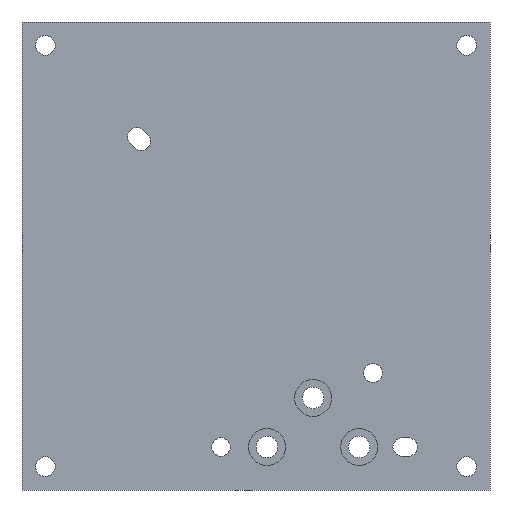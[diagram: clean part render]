
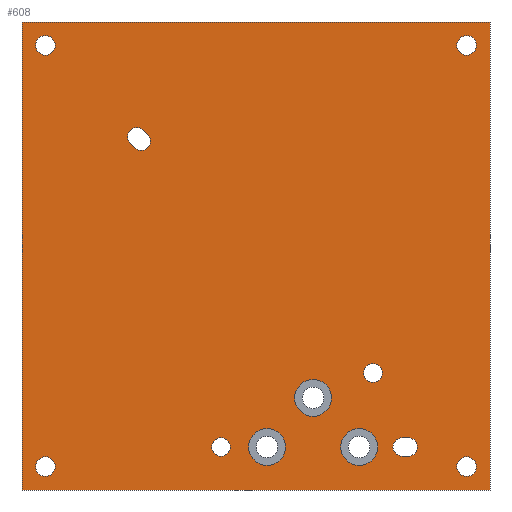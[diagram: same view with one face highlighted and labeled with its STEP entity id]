
A CAD part, front view. The second image highlights one B-rep face of the part: STEP entity #608.
In plain terms, the highlighted planar face has unit normal (0, -1, 0).
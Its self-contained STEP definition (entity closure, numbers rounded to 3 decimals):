
#18=LINE('',#919,#46);
#22=LINE('',#929,#50);
#26=LINE('',#953,#54);
#30=LINE('',#963,#58);
#31=LINE('',#1011,#59);
#35=LINE('',#1019,#63);
#38=LINE('',#1025,#66);
#41=LINE('',#1030,#69);
#46=VECTOR('',#743,1.);
#50=VECTOR('',#755,1.);
#54=VECTOR('',#779,1.);
#58=VECTOR('',#791,1.);
#59=VECTOR('',#850,76.2);
#63=VECTOR('',#856,76.2);
#66=VECTOR('',#861,76.2);
#69=VECTOR('',#866,76.2);
#125=FACE_BOUND('',#244,.T.);
#126=FACE_BOUND('',#245,.T.);
#127=FACE_BOUND('',#246,.T.);
#128=FACE_BOUND('',#247,.T.);
#129=FACE_BOUND('',#248,.T.);
#130=FACE_BOUND('',#249,.T.);
#131=FACE_BOUND('',#250,.T.);
#132=FACE_BOUND('',#251,.T.);
#133=FACE_BOUND('',#252,.T.);
#134=FACE_BOUND('',#253,.T.);
#135=FACE_BOUND('',#254,.T.);
#172=FACE_OUTER_BOUND('',#243,.T.);
#243=EDGE_LOOP('',(#534,#535,#536,#537));
#244=EDGE_LOOP('',(#538));
#245=EDGE_LOOP('',(#539));
#246=EDGE_LOOP('',(#540));
#247=EDGE_LOOP('',(#541,#542,#543,#544));
#248=EDGE_LOOP('',(#545));
#249=EDGE_LOOP('',(#546));
#250=EDGE_LOOP('',(#547,#548,#549,#550));
#251=EDGE_LOOP('',(#551));
#252=EDGE_LOOP('',(#552));
#253=EDGE_LOOP('',(#553));
#254=EDGE_LOOP('',(#554));
#257=CIRCLE('',#615,3.);
#261=CIRCLE('',#622,3.);
#265=CIRCLE('',#629,3.);
#268=CIRCLE('',#634,1.5);
#270=CIRCLE('',#638,1.5);
#272=CIRCLE('',#642,1.5);
#274=CIRCLE('',#645,1.518);
#276=CIRCLE('',#648,1.518);
#278=CIRCLE('',#652,1.518);
#282=CIRCLE('',#660,1.6);
#286=CIRCLE('',#667,1.6);
#290=CIRCLE('',#674,1.6);
#294=CIRCLE('',#681,1.6);
#297=VERTEX_POINT('',#879);
#301=VERTEX_POINT('',#890);
#305=VERTEX_POINT('',#901);
#309=VERTEX_POINT('',#910);
#310=VERTEX_POINT('',#912);
#312=VERTEX_POINT('',#918);
#314=VERTEX_POINT('',#924);
#316=VERTEX_POINT('',#933);
#318=VERTEX_POINT('',#938);
#321=VERTEX_POINT('',#944);
#322=VERTEX_POINT('',#946);
#324=VERTEX_POINT('',#952);
#326=VERTEX_POINT('',#958);
#330=VERTEX_POINT('',#973);
#334=VERTEX_POINT('',#984);
#338=VERTEX_POINT('',#995);
#342=VERTEX_POINT('',#1006);
#343=VERTEX_POINT('',#1009);
#344=VERTEX_POINT('',#1010);
#347=VERTEX_POINT('',#1018);
#349=VERTEX_POINT('',#1024);
#353=EDGE_CURVE('',#297,#297,#257,.T.);
#357=EDGE_CURVE('',#301,#301,#261,.T.);
#361=EDGE_CURVE('',#305,#305,#265,.T.);
#365=EDGE_CURVE('',#310,#309,#268,.T.);
#368=EDGE_CURVE('',#312,#310,#18,.T.);
#371=EDGE_CURVE('',#314,#312,#270,.T.);
#374=EDGE_CURVE('',#309,#314,#22,.T.);
#376=EDGE_CURVE('',#316,#316,#272,.T.);
#378=EDGE_CURVE('',#318,#318,#274,.T.);
#381=EDGE_CURVE('',#322,#321,#276,.T.);
#384=EDGE_CURVE('',#324,#322,#26,.T.);
#387=EDGE_CURVE('',#326,#324,#278,.T.);
#390=EDGE_CURVE('',#321,#326,#30,.T.);
#394=EDGE_CURVE('',#330,#330,#282,.T.);
#398=EDGE_CURVE('',#334,#334,#286,.T.);
#402=EDGE_CURVE('',#338,#338,#290,.T.);
#406=EDGE_CURVE('',#342,#342,#294,.T.);
#407=EDGE_CURVE('',#343,#344,#31,.T.);
#411=EDGE_CURVE('',#347,#343,#35,.T.);
#414=EDGE_CURVE('',#349,#347,#38,.T.);
#417=EDGE_CURVE('',#344,#349,#41,.T.);
#534=ORIENTED_EDGE('',*,*,#414,.F.);
#535=ORIENTED_EDGE('',*,*,#417,.F.);
#536=ORIENTED_EDGE('',*,*,#407,.F.);
#537=ORIENTED_EDGE('',*,*,#411,.F.);
#538=ORIENTED_EDGE('',*,*,#353,.T.);
#539=ORIENTED_EDGE('',*,*,#357,.T.);
#540=ORIENTED_EDGE('',*,*,#361,.T.);
#541=ORIENTED_EDGE('',*,*,#371,.T.);
#542=ORIENTED_EDGE('',*,*,#368,.T.);
#543=ORIENTED_EDGE('',*,*,#365,.T.);
#544=ORIENTED_EDGE('',*,*,#374,.T.);
#545=ORIENTED_EDGE('',*,*,#376,.T.);
#546=ORIENTED_EDGE('',*,*,#378,.T.);
#547=ORIENTED_EDGE('',*,*,#387,.T.);
#548=ORIENTED_EDGE('',*,*,#384,.T.);
#549=ORIENTED_EDGE('',*,*,#381,.T.);
#550=ORIENTED_EDGE('',*,*,#390,.T.);
#551=ORIENTED_EDGE('',*,*,#394,.T.);
#552=ORIENTED_EDGE('',*,*,#398,.T.);
#553=ORIENTED_EDGE('',*,*,#402,.T.);
#554=ORIENTED_EDGE('',*,*,#406,.T.);
#571=PLANE('',#687);
#608=ADVANCED_FACE('',(#172,#125,#126,#127,#128,#129,#130,#131,#132,#133,
#134,#135),#571,.F.);
#615=AXIS2_PLACEMENT_3D('',#880,#698,#699);
#622=AXIS2_PLACEMENT_3D('',#891,#712,#713);
#629=AXIS2_PLACEMENT_3D('',#902,#726,#727);
#634=AXIS2_PLACEMENT_3D('',#913,#737,#738);
#638=AXIS2_PLACEMENT_3D('',#925,#749,#750);
#642=AXIS2_PLACEMENT_3D('',#934,#760,#761);
#645=AXIS2_PLACEMENT_3D('',#939,#766,#767);
#648=AXIS2_PLACEMENT_3D('',#947,#773,#774);
#652=AXIS2_PLACEMENT_3D('',#959,#785,#786);
#660=AXIS2_PLACEMENT_3D('',#974,#804,#805);
#667=AXIS2_PLACEMENT_3D('',#985,#818,#819);
#674=AXIS2_PLACEMENT_3D('',#996,#832,#833);
#681=AXIS2_PLACEMENT_3D('',#1007,#846,#847);
#687=AXIS2_PLACEMENT_3D('',#1033,#870,#871);
#698=DIRECTION('center_axis',(0.,1.,0.));
#699=DIRECTION('ref_axis',(1.,0.,0.));
#712=DIRECTION('center_axis',(0.,1.,0.));
#713=DIRECTION('ref_axis',(1.,0.,0.));
#726=DIRECTION('center_axis',(0.,1.,0.));
#727=DIRECTION('ref_axis',(1.,0.,0.));
#737=DIRECTION('center_axis',(0.,1.,0.));
#738=DIRECTION('ref_axis',(0.,0.,-1.));
#743=DIRECTION('',(1.,0.,0.));
#749=DIRECTION('center_axis',(0.,1.,0.));
#750=DIRECTION('ref_axis',(0.,0.,1.));
#755=DIRECTION('',(-1.,0.,0.));
#760=DIRECTION('center_axis',(0.,1.,0.));
#761=DIRECTION('ref_axis',(-1.,0.,0.));
#766=DIRECTION('center_axis',(0.,1.,0.));
#767=DIRECTION('ref_axis',(-1.,0.,0.));
#773=DIRECTION('center_axis',(0.,1.,0.));
#774=DIRECTION('ref_axis',(0.707,0.,0.707));
#779=DIRECTION('',(-0.707,0.,0.707));
#785=DIRECTION('center_axis',(0.,1.,0.));
#786=DIRECTION('ref_axis',(-0.707,0.,-0.707));
#791=DIRECTION('',(0.707,0.,-0.707));
#804=DIRECTION('center_axis',(0.,1.,0.));
#805=DIRECTION('ref_axis',(1.,0.,0.));
#818=DIRECTION('center_axis',(0.,1.,0.));
#819=DIRECTION('ref_axis',(1.,0.,0.));
#832=DIRECTION('center_axis',(0.,1.,0.));
#833=DIRECTION('ref_axis',(1.,0.,0.));
#846=DIRECTION('center_axis',(0.,1.,0.));
#847=DIRECTION('ref_axis',(1.,0.,0.));
#850=DIRECTION('',(0.,0.,-1.));
#856=DIRECTION('',(1.,0.,0.));
#861=DIRECTION('',(0.,0.,1.));
#866=DIRECTION('',(-1.,0.,0.));
#870=DIRECTION('center_axis',(0.,1.,0.));
#871=DIRECTION('ref_axis',(0.,0.,1.));
#879=CARTESIAN_POINT('',(19.8,0.,-31.1));
#880=CARTESIAN_POINT('Origin',(16.8,0.,-31.1));
#890=CARTESIAN_POINT('',(4.8,0.,-31.1));
#891=CARTESIAN_POINT('Origin',(1.8,0.,-31.1));
#901=CARTESIAN_POINT('',(12.3,0.,-23.1));
#902=CARTESIAN_POINT('Origin',(9.3,0.,-23.1));
#910=CARTESIAN_POINT('',(24.8,0.,-32.6));
#912=CARTESIAN_POINT('',(24.8,0.,-29.6));
#913=CARTESIAN_POINT('Origin',(24.8,0.,-31.1));
#918=CARTESIAN_POINT('',(23.8,0.,-29.6));
#919=CARTESIAN_POINT('',(6.57,0.,-29.6));
#924=CARTESIAN_POINT('',(23.8,0.,-32.6));
#925=CARTESIAN_POINT('Origin',(23.8,0.,-31.1));
#929=CARTESIAN_POINT('',(6.82,0.,-32.6));
#933=CARTESIAN_POINT('',(-4.2,0.,-31.1));
#934=CARTESIAN_POINT('Origin',(-5.7,0.,-31.1));
#938=CARTESIAN_POINT('',(20.568,0.,-19.05));
#939=CARTESIAN_POINT('Origin',(19.05,0.,-19.05));
#944=CARTESIAN_POINT('',(-18.331,0.,20.477));
#946=CARTESIAN_POINT('',(-20.477,0.,18.331));
#947=CARTESIAN_POINT('Origin',(-19.404,0.,19.404));
#952=CARTESIAN_POINT('',(-19.769,0.,17.623));
#953=CARTESIAN_POINT('',(-10.598,0.,8.452));
#958=CARTESIAN_POINT('',(-17.623,0.,19.769));
#959=CARTESIAN_POINT('Origin',(-18.696,0.,18.696));
#963=CARTESIAN_POINT('',(-8.452,0.,10.598));
#973=CARTESIAN_POINT('',(32.69,0.,34.29));
#974=CARTESIAN_POINT('Origin',(34.29,0.,34.29));
#984=CARTESIAN_POINT('',(-35.89,0.,34.29));
#985=CARTESIAN_POINT('Origin',(-34.29,0.,34.29));
#995=CARTESIAN_POINT('',(-35.89,0.,-34.29));
#996=CARTESIAN_POINT('Origin',(-34.29,0.,-34.29));
#1006=CARTESIAN_POINT('',(32.69,0.,-34.29));
#1007=CARTESIAN_POINT('Origin',(34.29,0.,-34.29));
#1009=CARTESIAN_POINT('',(38.1,0.,38.1));
#1010=CARTESIAN_POINT('',(38.1,0.,-38.1));
#1011=CARTESIAN_POINT('',(38.1,0.,38.1));
#1018=CARTESIAN_POINT('',(-38.1,0.,38.1));
#1019=CARTESIAN_POINT('',(-38.1,0.,38.1));
#1024=CARTESIAN_POINT('',(-38.1,0.,-38.1));
#1025=CARTESIAN_POINT('',(-38.1,0.,-38.1));
#1030=CARTESIAN_POINT('',(38.1,0.,-38.1));
#1033=CARTESIAN_POINT('Origin',(-11.159,0.,-11.159));
